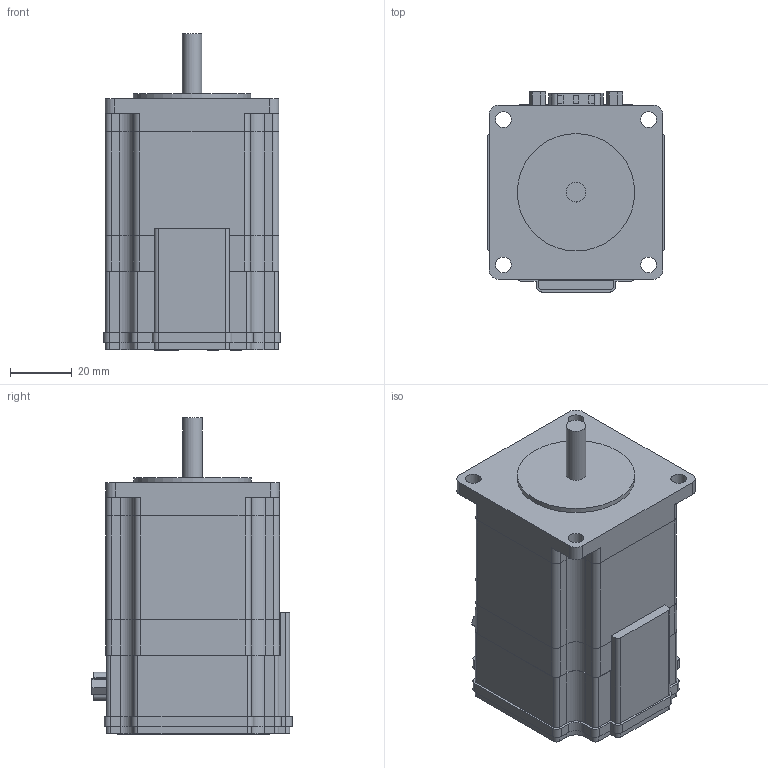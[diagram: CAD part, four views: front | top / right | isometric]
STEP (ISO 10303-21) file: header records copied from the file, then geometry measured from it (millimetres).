
FILE_DESCRIPTION(/* description */ ('Alibre Inc.'),/* implementation_level */ '2;1');
FILE_NAME(/* name */ 'export0',/* time_stamp */ '2017-01-11T11:25:39-08:00',/* author */ (''),/* organization */ (''),/* preprocessor_version */ 'ST-DEVELOPER v14',/* originating_system */ 'Alibre',/* authorisation */ '');
FILE_SCHEMA (('AUTOMOTIVE_DESIGN'));
Length unit declared in the file: inch
Bounding box: 57.4 x 64.95 x 102.66 mm (x, y, z)
Volume: 181580.3 mm3; surface area: 57432.8 mm2
Topology: 66 solids, 66 shells, 1866 faces, 4805 edges, 3153 vertices
Faces by surface type: plane 840, bspline 641, cylinder 335, torus 50
Full cylindrical faces by diameter (mm): 2.459 x8, 2.489 x2, 2.87 x2, 3 x4, 3.175 x2, 5.1 x4, 6.35 x3, 38.1 x1
Entity records: 61425 total; most frequent: CARTESIAN_POINT 20946, ORIENTED_EDGE 9568, DIRECTION 5518, EDGE_CURVE 4754, VERTEX_POINT 3134, VECTOR 2729, LINE 2729, EDGE_LOOP 2002
